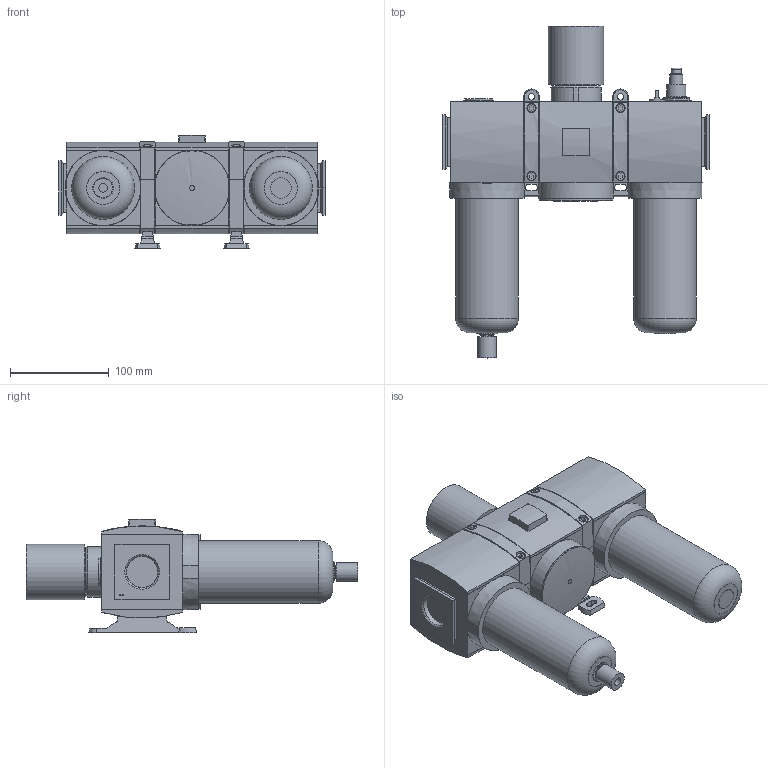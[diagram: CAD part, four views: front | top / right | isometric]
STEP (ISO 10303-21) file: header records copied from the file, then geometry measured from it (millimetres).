
FILE_DESCRIPTION( ( 'STEP AP214' ), '1' );
FILE_NAME( 'p:/temp/worker_228/temp/exporttempdir_5572_1223_guvyN/format_0/07592020-190228_gen_21408.stp', '2020-02-07T18:59:29', ( '' ), ( '' ), ' ', 'PARTsolutions', ' ' );
FILE_SCHEMA( ( 'AUTOMOTIVE_DESIGN { 1 0 10303 214 1 1 1 1 }' ) );
Length unit declared in the file: millimetre
Products named in the file (14): 07592020-190228_gen_21408; _439498-012-F(L); _439489-001-0; _439851-002; _507439-006-P; _653-440512-002; _G653ASLA0B00A00_LS; _439488-012-F(L); _439489-002-H; _653-438047-009; _503493-001; _510722-001-STANDARD_653; _503402-001; _500180-015-F(L)
Assembly tree (19 placements, depth 2):
  07592020-190228_gen_21408
    _439498-012-F(L)
    _439489-001-0  x5
    _439851-002
    _507439-006-P  x2
    _653-440512-002
    _G653ASLA0B00A00_LS  x2
    _439488-012-F(L)
    _439489-002-H
    _653-438047-009
    _503493-001
    _510722-001-STANDARD_653
    _503402-001
    _500180-015-F(L)
Bounding box: 270 x 335.95 x 115.36 mm (x, y, z)
Volume: 3145625 mm3; surface area: 388210.2 mm2
Topology: 19 solids, 20 shells, 851 faces, 2042 edges, 1311 vertices
Faces by surface type: plane 607, cylinder 157, cone 60, torus 25, sphere 1, bspline 1
Full cylindrical faces by diameter (mm): 1.7 x2, 2.8 x2, 3 x2, 5.85 x4, 6.3 x4, 6.5 x2, 8.5 x4, 8.6 x1, 9.652 x1, 10 x1, 12 x4, 12.985 x1, 13 x2, 15.875 x1, 19 x1, 19.4 x1, 22.7 x1, 27 x1, 30 x2, 33.5 x2, 55.99 x1, 59.732 x1, 63.5 x2
Entity records: 26238 total; most frequent: CARTESIAN_POINT 3914, DIRECTION 3431, ORIENTED_EDGE 3164, EDGE_CURVE 1582, AXIS2_PLACEMENT_3D 1159, LINE 1113, VECTOR 1113, VERTEX_POINT 1068
